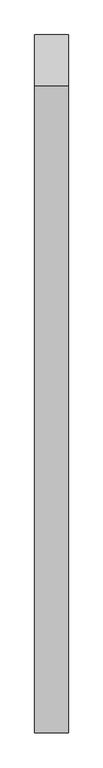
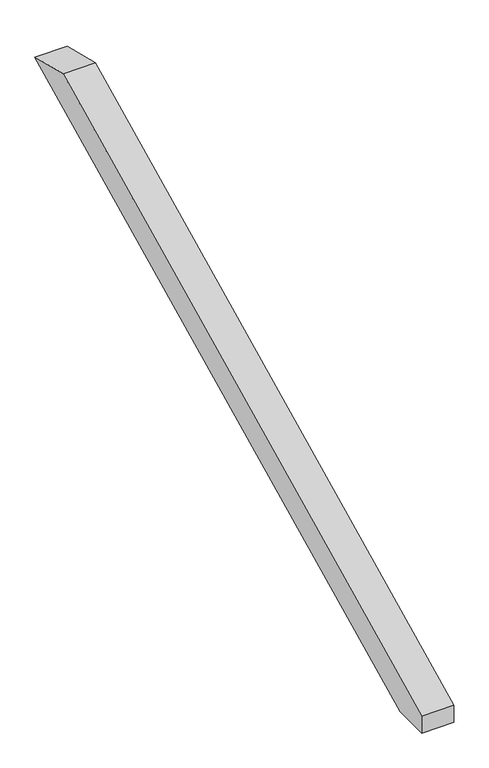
"""IFC4 building model written with IfcOpenShell, lengths in millimetres: proxy geometry, Modelos genéricos 135 : Modelos genéricos 16."""

from ifc_helpers import new_model, si_unit, frame, origin, place, context, project, spatial, polyline, outline, extrude, source, transform, mapped, element, save


def generic_models_f43e62c5(model_context):
    return source(origin(), model_context, "Body", "SweptSolid", [
        extrude(outline(polyline([(3173.8548825, 3756.8218964), (3264.4256133, 3734.240077), (2087.0589775, 3160.0), (2018.6238165, 3160.0), (2018.6238165, 3193.3780582), (3173.8548825, 3756.8218964)])), frame((9223.4472467, 0.0, 0.0), z_axis=(1.0, 0.0, 0.0), x_axis=(0.0, 1.0, 0.0)), (0.0, 0.0, 1.0), 60.0),
    ])


if __name__ == "__main__":
    model = new_model("IFC4")
    model_context = context("Model", 3, world=origin())
    ifc_project = project(units=[si_unit("LENGTHUNIT", "METRE", prefix="MILLI")], contexts=[model_context])
    site = spatial("IfcSite", under=ifc_project)
    building = spatial("IfcBuilding", under=site)
    placement = place(None, origin())
    generic_models_shape = generic_models_f43e62c5(model_context)
    element("IfcBuildingElementProxy", 1, Name="Modelos genéricos 135 : Modelos genéricos 16", ObjectType="Modelos genéricos 135 : Modelos genéricos 16", at=placement, inside=building, context=model_context, shape_type="MappedRepresentation", body=[
        mapped(generic_models_shape, transform((0.0, 0.0, 0.0), x_axis=(1.0, 0.0, 0.0), y_axis=(0.0, 1.0, 0.0), z_axis=(0.0, 0.0, 1.0))),
    ])
    save(model, "model.ifc")
